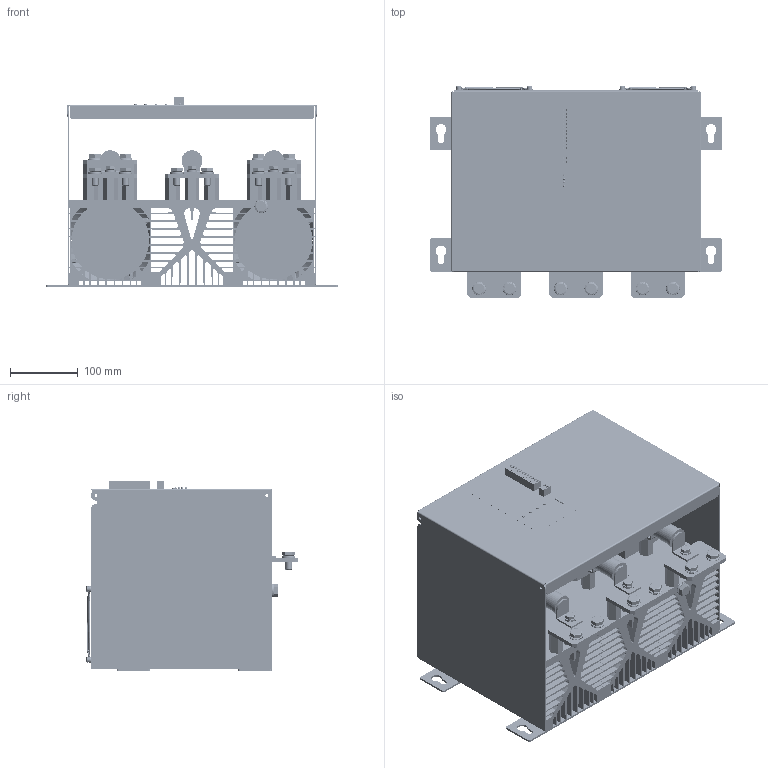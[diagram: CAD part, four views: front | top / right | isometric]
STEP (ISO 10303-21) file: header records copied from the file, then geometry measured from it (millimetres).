
FILE_DESCRIPTION(('STEP AP203'), '1');
FILE_NAME('ÒÐÌ 2Ì-300(380) RS485', '2025-06-10T10:23:06', (''), ('ÎÎÎ "Ìåàíäð"'), 'C3D Converter', 'C3D Toolkit', '');
FILE_SCHEMA(('CONFIG_CONTROL_DESIGN'));
Length unit declared in the file: millimetre
Products named in the file (5): ТРМ
Assembly tree (21 placements, depth 2):
  (unnamed)
    ТРМ
    ТРМ
    (unnamed)  x6
    (unnamed)  x13
Bounding box: 433 x 314.41 x 282.4 mm (x, y, z)
Volume: 199595.1 mm3; surface area: 2619937.4 mm2
Topology: 20 solids, 21 shells, 5661 faces, 16836 edges, 11086 vertices
Faces by surface type: plane 3241, extrusion 1222, cylinder 848, torus 138, bspline 121, cone 79, sphere 12
Full cylindrical faces by diameter (mm): 1.8 x2, 3.3 x4, 4 x12, 4.2 x4, 4.572 x16, 6.1 x4, 8 x32, 8.4 x6, 9 x8, 10 x27, 10.8 x1, 11.6 x6, 15.6 x13, 16 x12, 20 x13, 28.5 x3, 31 x6, 115 x2, 115.062 x2, 118.662 x2
Entity records: 271915 total; most frequent: CARTESIAN_POINT 97141, ORIENTED_EDGE 30399, DIRECTION 22725, EDGE_CURVE 15211, VECTOR 10883, VERTEX_POINT 10106, LINE 9661, AXIS2_PLACEMENT_3D 5921
